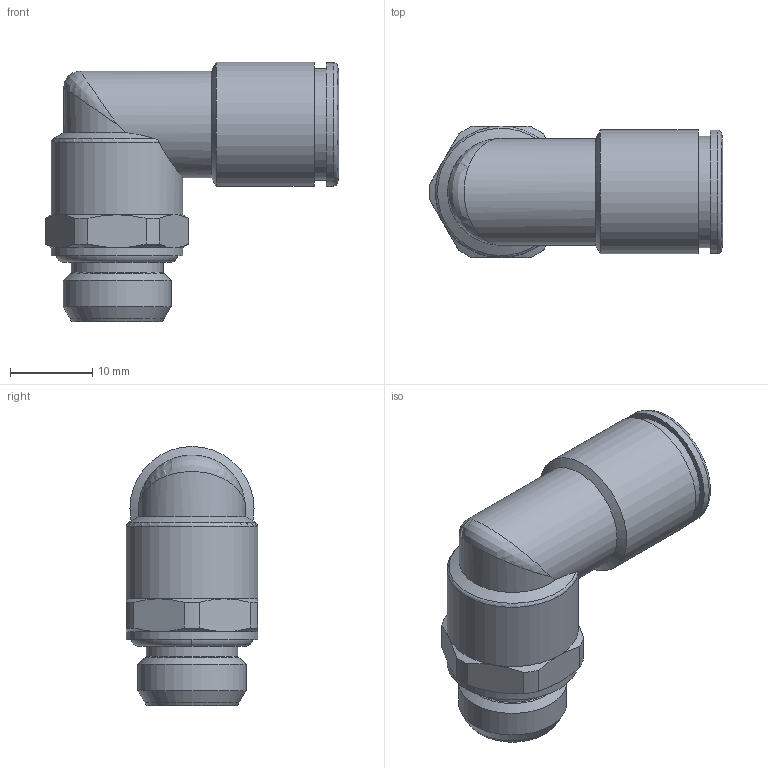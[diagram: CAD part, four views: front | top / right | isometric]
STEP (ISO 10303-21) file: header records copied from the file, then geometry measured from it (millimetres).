
FILE_DESCRIPTION(('Bauteilbeschreibung','HiCAD-Model','HiCAD-STEP-TRANSLATION','Bauteilbeschreibung'),'2;1');
FILE_NAME('B:/ABGLEICH/ZEICHNUNGEN/STEP FÜR INTERNET/STEP/202208_IPSO_022_10_1-4.STP','2011-09-16T11:54:44+00:00',('Konstrukteur'),('Konstrukteur Firma GmbH'),' HiCAD neXt 2008, Step 3.1.1401.2J ','HiCAD neXt 2008','confidential');
FILE_SCHEMA(('AUTOMOTIVE_DESIGN { 1 2 10303 214 0 1 1 1 }'));
Length unit declared in the file: millimetre
Products named in the file (7): A02208_IPSO_022_10_1_4; OR 11_11X1_78; A14627_GEW_1_4_1_4; A146270GEW01040104; G 1_4; DR10_N; R202208_N
Assembly tree (6 placements, depth 3):
  A02208_IPSO_022_10_1_4
    OR 11_11X1_78
    A14627_GEW_1_4_1_4
    A146270GEW01040104
      G 1_4
    DR10_N
    R202208_N
Bounding box: 35.74 x 16 x 31.55 mm (x, y, z)
Volume: 4502.4 mm3; surface area: 6251.8 mm2
Topology: 5 solids, 5 shells, 86 faces, 195 edges, 117 vertices
Faces by surface type: cone 31, cylinder 28, plane 18, torus 8, bspline 1
Full cylindrical faces by diameter (mm): 8 x2, 10.2 x2, 11.2 x1, 11.445 x2, 12.2 x2, 12.3 x1, 13 x2, 13.157 x1, 13.5 x1, 13.6 x1, 13.7 x1, 15 x1, 15.1 x1, 16 x2
Entity records: 3888 total; most frequent: CARTESIAN_POINT 1468, DIRECTION 384, ORIENTED_EDGE 274, AXIS2_PLACEMENT_3D 185, EDGE_CURVE 137, EDGE_LOOP 137, COLOUR_RGB 123, PRESENTATION_STYLE_ASSIGNMENT 123
